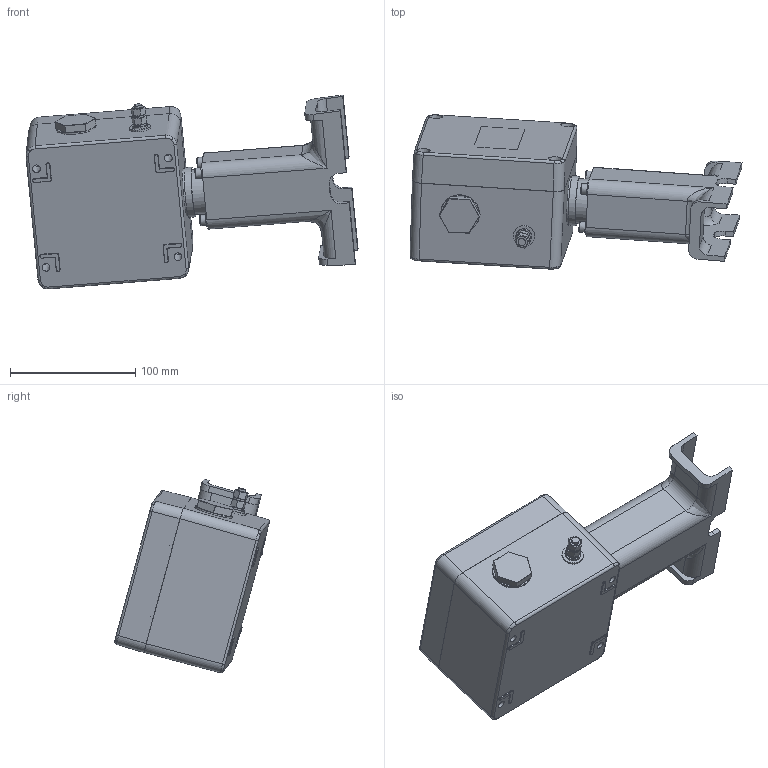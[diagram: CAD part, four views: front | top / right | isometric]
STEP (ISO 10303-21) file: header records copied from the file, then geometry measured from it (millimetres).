
FILE_DESCRIPTION(/* description */ (''),/* implementation_level */ '2;1');
FILE_NAME(/* name */ 'E:\Документы\\X2\041F0440043E0435043A0442044B\X0\ ТЕРМ\\X2\041A043E0440043E0431043A0438\X0\ соединительные\Взрывозащищённые коробки\TERMBOX Ex 120N\TERMBOX Ex 120N.stp',/* time_stamp */ '2025-10-02T16:10:59+05:00',/* author */ ('Vlad'),/* organization */ (''),/* preprocessor_version */ 'ST-DEVELOPER v15.6',/* originating_system */ 'Autodesk Inventor 2015',/* authorisation */ '');
FILE_SCHEMA (('AUTOMOTIVE_DESIGN { 1 0 10303 214 3 1 1 }'));
Products named in the file (38): 23251-Ex Unterteil; 86222; 86224; UT10; DIN-рейка; CBC.10; UT10 заземление; BT003; Винт A2.M6-6gx10 \X2\0413041E04210422
\X0\ 17473-80; Шайба 6 ГОСТ 
11371-78; Заглушка \X2\044704510440
043D0430044F\X0\; Кольцо; Шпилька; Гайка M6 ГОСТ 
15526-70; Шайба 2У 6Л 
ГОСТ 6402-78; Шайба 8 ГОСТ 
11371-78; Провод для \X2\043F04350440
0435043C044B0447043A0438\X0\ в \X2\043A043E0440043F04430441
\X0\ 120 мм; НШВИ 6,0х6; Кабельный \X2\043D0430043A043E043D
04350447043D0438043A\X0\ кольцевой 
6 кв.мм; Перемычка в \X2\043C043E
04340435043B044C\X0\ корпуса 120 \X2\043C
043C\X0\; TERMBOX Ex 120N коробка; 93136; 23251-Ex Deckel; Уплотнитель; Наклейка; TERMBOX Ex 120N крышка; Нога; Шайба 5 ГОСТ 
11371-78; Гайка к \X2\043D043E
04330435\X0\; Кольцо к \X2\043D
043E04330435\X0\; Заглушка \X2\043A043004310435043B044F
\X0\ универсальная; Винт M5-6gx40 \X2\0413041E04210422
\X0\ 11738-84; Костыль для \X2\04370430
0442044B0447043A0438\X0\ саморега \X2\043C
0430043B043E0433043E\X0\; Костыль для \X2\04370430
0433043B04430448043A0438\X0\ резистива; Шайба к \X2\043D043E
04330435\X0\; Устройство \X2\04320432043E0434
0430\X0\ под \X2\04420435043F043B043E04380437043E043B
044F04460438044E\X0\; TERMBOX Ex 120N
Assembly tree (71 placements, depth 4):
  TERMBOX Ex 120N
    TERMBOX Ex 120N коробка
      23251-Ex Unterteil
        23251-Ex Unterteil
        86222  x6
        86224  x4
      UT10
      DIN-рейка
      CBC.10  x2
      UT10 заземление  x2
      BT003
      Винт A2.M6-6gx10 \X2\0413041E04210422
\X0\ 17473-80  x2
      Шайба 6 ГОСТ 
11371-78  x4
      Заглушка \X2\044704510440
043D0430044F\X0\
      Кольцо
      Шпилька
      Гайка M6 ГОСТ 
15526-70  x4
      Шайба 2У 6Л 
ГОСТ 6402-78  x4
      Шайба 8 ГОСТ 
11371-78
      Перемычка в \X2\043C043E
04340435043B044C\X0\ корпуса 120 \X2\043C
043C\X0\
        Провод для \X2\043F04350440
0435043C044B0447043A0438\X0\ в \X2\043A043E0440043F04430441
\X0\ 120 мм
        НШВИ 6,0х6
        Кабельный \X2\043D0430043A043E043D
04350447043D0438043A\X0\ кольцевой 
6 кв.мм
    TERMBOX Ex 120N крышка
      93136  x4
      23251-Ex Deckel
      Уплотнитель
      Наклейка
    Устройство \X2\04320432043E0434
0430\X0\ под \X2\04420435043F043B043E04380437043E043B
044F04460438044E\X0\
      Нога
      Шайба 5 ГОСТ 
11371-78  x4
      Гайка к \X2\043D043E
04330435\X0\
      Кольцо к \X2\043D
043E04330435\X0\
      Заглушка \X2\043A043004310435043B044F
\X0\ универсальная
      Винт M5-6gx40 \X2\0413041E04210422
\X0\ 11738-84  x4
      Костыль для \X2\04370430
0442044B0447043A0438\X0\ саморега \X2\043C
0430043B043E0433043E\X0\  x3
      Костыль для \X2\04370430
0433043B04430448043A0438\X0\ резистива  x4
      Шайба к \X2\043D043E
04330435\X0\
Bounding box: 265.44 x 123.57 x 155 mm (x, y, z)
Volume: 643921.4 mm3; surface area: 309463.4 mm2
Topology: 67 solids, 67 shells, 2268 faces, 5618 edges, 3558 vertices
Faces by surface type: plane 1164, cylinder 579, bspline 284, cone 142, torus 75, sphere 24
Full cylindrical faces by diameter (mm): 3 x12, 3.5 x2, 3.9 x1, 4.917 x4, 5 x31, 5.02 x10, 5.1 x6, 5.3 x12, 5.6 x6, 5.8 x8, 5.842 x1, 5.9 x1, 6 x8, 6.2 x1, 6.4 x4, 6.8 x1, 7.4 x10, 7.5 x4, 7.8 x1, 7.867 x1, 8 x4, 8.4 x1, 8.5 x4, 10 x6, 12.5 x4, 17 x1, 19 x1, 23 x4, 25 x1, 30.5 x1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
Entity records: 66197 total; most frequent: CARTESIAN_POINT 30129, DIRECTION 7322, ORIENTED_EDGE 7198, EDGE_CURVE 3599, AXIS2_PLACEMENT_3D 2729, VERTEX_POINT 2343, LINE 1864, VECTOR 1864
